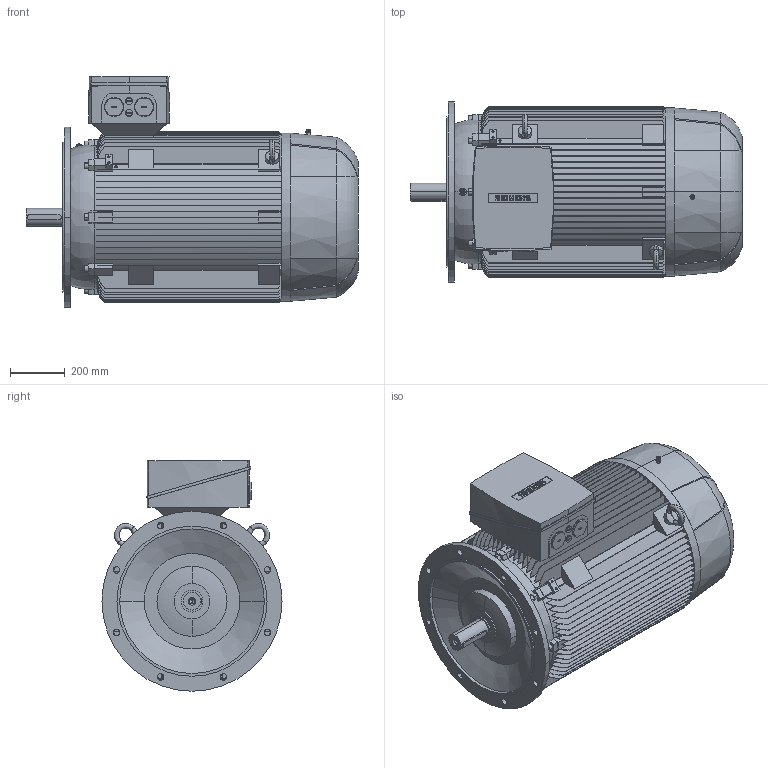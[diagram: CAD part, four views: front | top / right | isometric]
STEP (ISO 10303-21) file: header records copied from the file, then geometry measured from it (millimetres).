
FILE_DESCRIPTION(('STEP AP214'),'1');
FILE_NAME('cctmp_49D1C9D5-3AE6-42FD-8400-24EE20E86B1C_2020_6_30_13_8_49_805..stp','2020-06-30T11:08:51',('SIEMENS A&D'),('CADClick - www.CADClick.com'),'Spatial InterOp 3D',' ','unknown authorization');
FILE_SCHEMA(('AUTOMOTIVE_DESIGN'));
Length unit declared in the file: millimetre
Products named in the file (1): 1
Bounding box: 1217 x 660 x 845 mm (x, y, z)
Volume: 272554352.2 mm3; surface area: 8130466.1 mm2
Topology: 4 solids, 4 shells, 1321 faces, 3749 edges, 2475 vertices
Faces by surface type: plane 840, cylinder 279, torus 174, cone 28
Entity records: 62117 total; most frequent: CARTESIAN_POINT 17271, ORIENTED_EDGE 7478, DIRECTION 6872, EDGE_CURVE 3739, VERTEX_POINT 2475, AXIS2_PLACEMENT_3D 2355, LINE 2162, VECTOR 2162
